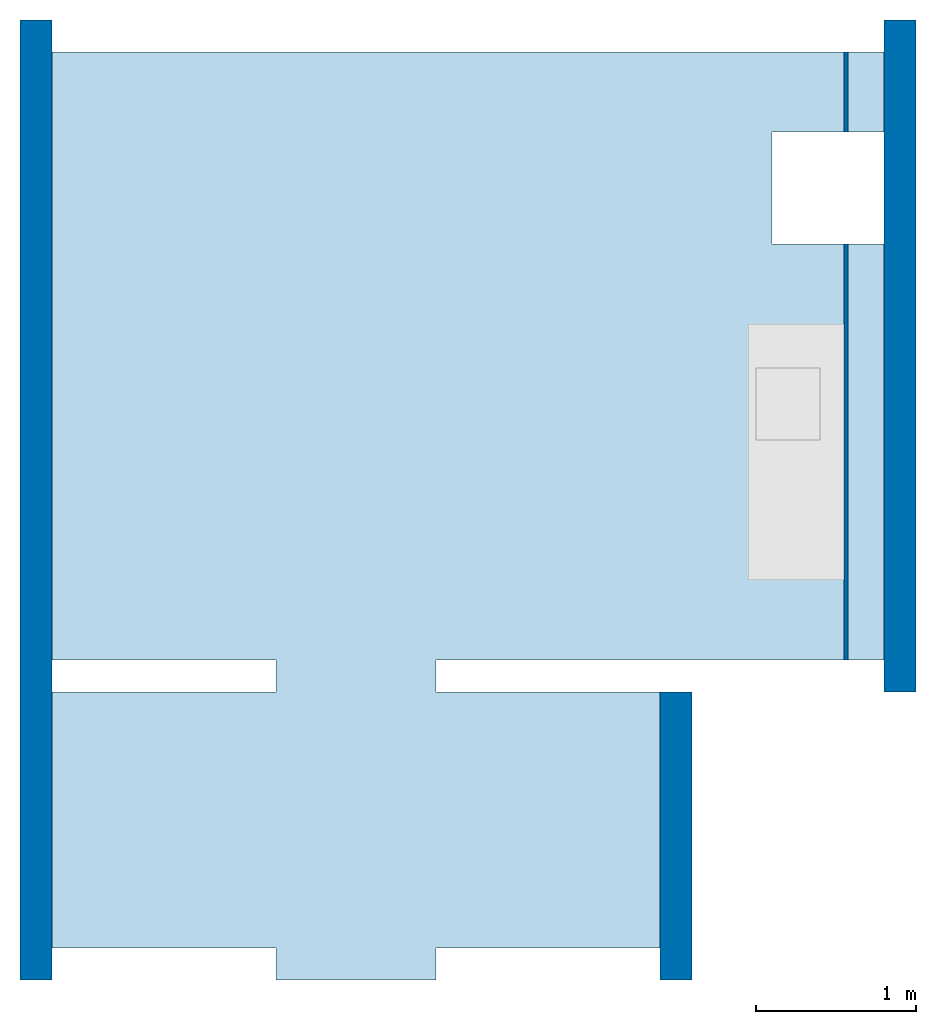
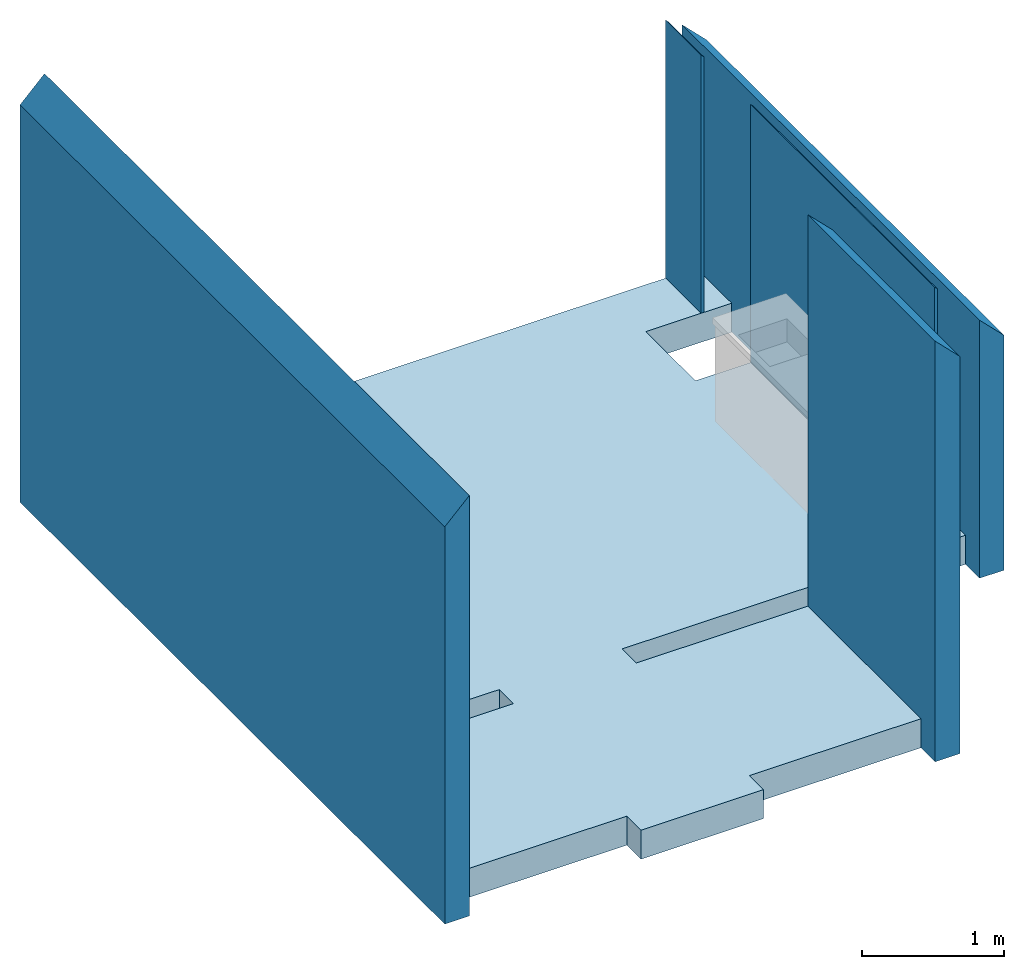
# One storey, part 1 of 2: 4 walls, 1 slab.
"""IFC2X3 building model written with IfcOpenShell, lengths in millimetres."""

from ifc_helpers import new_model, si_unit, frame, origin_with_axes, place, context, subcontext, project, spatial, faceted_brep, material, type_object, element, save


model = new_model("IFC2X3")

# Units and contexts
model_context = context("Model", 3, precision=0.001, world=origin_with_axes())
body_context = subcontext(model_context, "Body", "Model", "MODEL_VIEW")
ifc_project = project(units=[si_unit("LENGTHUNIT", "METRE", prefix="MILLI"), si_unit("AREAUNIT", "SQUARE_METRE"), si_unit("VOLUMEUNIT", "CUBIC_METRE")], contexts=[model_context])

# Site, building, storey
site_placement = place(None, frame((-28841.016, -14200.0, -1300.0), z_axis=(0.0, 0.0, 1.0), x_axis=(0.4999999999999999, -0.8660254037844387, 0.0)))
site = spatial("IfcSite", under=ifc_project, at=site_placement, Name="environment - site", CompositionType="ELEMENT")
building_placement = place(site_placement, frame((1024.871, 36175.129, 1300.0), z_axis=(0.0, 0.0, 1.0), x_axis=(0.4999999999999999, 0.8660254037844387, 0.0)))
building = spatial("IfcBuilding", under=site, at=building_placement, Name="Single-family house", CompositionType="ELEMENT")
storey_placement = place(building_placement, origin_with_axes())
storey = spatial("IfcBuildingStorey", under=building, at=storey_placement, Name="00 groundfloor", CompositionType="ELEMENT", Elevation=0.0)

# Slab
ifc_material_1 = material(Name="concrete_reinforced_in-situ")
slab_type = type_object("IfcSlabType", Name="house - groundfloor", PredefinedType="FLOOR")
slab_placement = place(storey_placement, frame((200.0, 0.0, -250.0), z_axis=(0.0, 0.0, 1.0), x_axis=(1.0, 0.0, 0.0)))
element("IfcSlab", 1, at=slab_placement, inside=storey, type_object=slab_type, material=ifc_material_1, Name="floor", ObjectType="slab on grade", context=body_context, shape_type="Brep", body=[
    faceted_brep([(2400.0, 0.0, 0.0), (2400.0, 200.0, 0.0), (2400.0, 200.0, 250.0), (2400.0, 0.0, 250.0), (1400.0, 0.0, 0.0), (1400.0, 200.0, 0.0), (0.0, 200.0, 0.0), (0.0, 1800.0, 0.0), (1400.0, 1800.0, 0.0), (1400.0, 2000.0, 0.0), (0.0, 2000.0, 0.0), (0.0, 5800.0, 0.0), (5200.0, 5800.0, 0.0), (5200.0, 5300.0, 0.0), (4500.0, 5300.0, 0.0), (4500.0, 4600.0, 0.0), (5200.0, 4600.0, 0.0), (5200.0, 2000.0, 0.0), (2400.0, 2000.0, 0.0), (2400.0, 1800.0, 0.0), (3800.0, 1800.0, 0.0), (3800.0, 200.0, 0.0), (3800.0, 200.0, 250.0), (1400.0, 0.0, 250.0), (3800.0, 1800.0, 250.0), (2400.0, 1800.0, 250.0), (2400.0, 2000.0, 250.0), (5200.0, 2000.0, 250.0), (5200.0, 4600.0, 250.0), (4500.0, 4600.0, 250.0), (4500.0, 5300.0, 250.0), (5200.0, 5300.0, 250.0), (5200.0, 5800.0, 250.0), (0.0, 5800.0, 250.0), (0.0, 2000.0, 250.0), (1400.0, 2000.0, 250.0), (1400.0, 1800.0, 250.0), (0.0, 1800.0, 250.0), (0.0, 200.0, 250.0), (1400.0, 200.0, 250.0)], [[[0, 1, 2, 3]], [[0, 4, 5, 6, 7, 8, 9, 10, 11, 12, 13, 14, 15, 16, 17, 18, 19, 20, 21, 1]], [[1, 21, 22, 2]], [[23, 3, 2, 22, 24, 25, 26, 27, 28, 29, 30, 31, 32, 33, 34, 35, 36, 37, 38, 39]], [[3, 23, 4, 0]], [[5, 4, 23, 39]], [[6, 5, 39, 38]], [[7, 6, 38, 37]], [[8, 7, 37, 36]], [[36, 35, 9, 8]], [[9, 35, 34, 10]], [[11, 10, 34, 33]], [[12, 11, 33, 32]], [[32, 31, 13, 12]], [[13, 31, 30, 14]], [[15, 14, 30, 29]], [[28, 16, 15, 29]], [[17, 16, 28, 27]], [[26, 18, 17, 27]], [[19, 18, 26, 25]], [[20, 19, 25, 24]], [[21, 20, 24, 22]]]),
])

# Walls
ifc_material_2 = material(Name="stone_sand-lime")
wall_type_1 = type_object("IfcWallType", Name="house - outer wall - house right front", PredefinedType="NOTDEFINED")
wall_1_placement = place(storey_placement, frame((4100.0, 1800.0, 0.0), z_axis=(3.668379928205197e-30, 3.2836943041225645e-15, 1.0), x_axis=(2.5272447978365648e-14, -1.0, 3.2836943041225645e-15)))
element("IfcWall", 2, at=wall_1_placement, inside=storey, type_object=wall_type_1, material=ifc_material_2, Name="house - outer wall - house right front", ObjectType="solidwall", context=body_context, shape_type="Brep", body=[
    faceted_brep([(1800.0, 100.0, -250.0), (0.0, 100.0, -250.0), (0.0, 100.0, 3175.736), (1800.0, 100.0, 3175.736), (1800.0, -100.0, -250.0), (0.0, -100.0, -250.0), (0.0, -100.0, 3375.736), (1800.0, -100.0, 3375.736)], [[[0, 1, 2, 3]], [[0, 4, 5, 1]], [[6, 2, 1, 5]], [[6, 7, 3, 2]], [[4, 0, 3, 7]], [[7, 6, 5, 4]]]),
])
wall_type_2 = type_object("IfcWallType", Name="house - outer wall - house right back", PredefinedType="NOTDEFINED")
wall_2_placement = place(storey_placement, frame((5500.0, 6000.0, 0.0), z_axis=(0.0, 0.0, 1.0), x_axis=(-1.1508600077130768e-15, -1.0, 0.0)))
element("IfcWall", 3, at=wall_2_placement, inside=storey, type_object=wall_type_2, material=ifc_material_2, Name="house - outer wall - house right back", ObjectType="solidwall", context=body_context, shape_type="Brep", body=[
    faceted_brep([(0.0, 100.0, -250.0), (0.0, 100.0, 1775.736), (4200.0, 100.0, 1775.736), (4200.0, 100.0, -250.0), (0.0, -100.0, -250.0), (0.0, -100.0, 1975.736), (4200.0, -100.0, 1975.736), (4200.0, -100.0, -250.0)], [[[0, 1, 2, 3]], [[0, 4, 5, 1]], [[5, 6, 2, 1]], [[2, 6, 7, 3]], [[3, 7, 4, 0]], [[6, 5, 4, 7]]]),
])
wall_type_3 = type_object("IfcWallType", Name="house - outer wall - house left", PredefinedType="NOTDEFINED")
wall_3_placement = place(storey_placement, frame((100.0, 0.0, 0.0), z_axis=(0.0, 0.0, 1.0), x_axis=(1.3173934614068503e-15, 1.0, 0.0)))
element("IfcWall", 4, at=wall_3_placement, inside=storey, type_object=wall_type_3, material=ifc_material_2, Name="house - outer wall - house left", ObjectType="solidwall", context=body_context, shape_type="Brep", body=[
    faceted_brep([(6000.0, -100.0, 3375.736), (0.0, -100.0, 3375.736), (0.0, -100.0, -250.0), (6000.0, -100.0, -250.0), (0.0, 100.0, 3175.736), (6000.0, 100.0, 3175.736), (0.0, 100.0, -250.0), (6000.0, 100.0, -250.0)], [[[0, 1, 2, 3]], [[4, 1, 0, 5]], [[1, 4, 6, 2]], [[3, 2, 6, 7]], [[5, 0, 3, 7]], [[7, 6, 4, 5]]]),
])
ifc_material_3 = material(Name="gypsum_fiber-board_panel")
wall_type_4 = type_object("IfcWallType", Name="plumbing wall", PredefinedType="NOTDEFINED")
wall_4_placement = place(storey_placement, frame((5400.0, 5800.0, 0.0), z_axis=(0.0, 0.0, 1.0), x_axis=(-1.3173934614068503e-15, -1.0, 0.0)))
element("IfcWall", 5, at=wall_4_placement, inside=storey, type_object=wall_type_4, material=ifc_material_3, Name="plumbing wall", ObjectType="plumbingwall", context=body_context, shape_type="Brep", body=[
    faceted_brep([(1200.0, -226.0, 0.0), (3800.0, -226.0, 0.0), (3800.0, -250.0, 0.0), (1200.0, -250.0, 0.0), (1200.0, -226.0, 2201.736), (3800.0, -226.0, 2201.736), (3800.0, -250.0, 2225.736), (1200.0, -250.0, 2225.736)], [[[0, 1, 2, 3]], [[0, 4, 5, 1]], [[2, 1, 5, 6]], [[3, 2, 6, 7]], [[7, 4, 0, 3]], [[6, 5, 4, 7]]]),
    faceted_brep([(500.0, -250.0, 2225.736), (500.0, -226.0, 2201.736), (0.0, -226.0, 2201.736), (0.0, -250.0, 2225.736), (500.0, -250.0, 0.0), (500.0, -226.0, 0.0), (0.0, -226.0, 0.0), (0.0, -250.0, 0.0)], [[[0, 1, 2, 3]], [[4, 5, 1, 0]], [[6, 2, 1, 5]], [[3, 2, 6, 7]], [[7, 4, 0, 3]], [[6, 5, 4, 7]]]),
])

save(model, "model.ifc")
